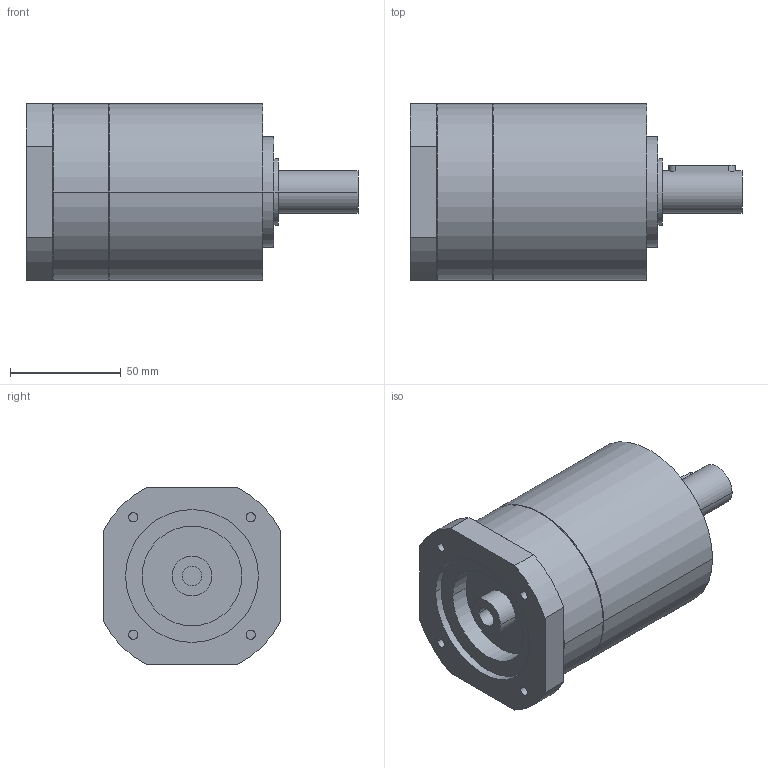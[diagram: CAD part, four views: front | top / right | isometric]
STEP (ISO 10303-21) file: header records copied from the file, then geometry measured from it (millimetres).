
FILE_DESCRIPTION(('CoCreate Modeling STEP Export'),'2;1');
FILE_NAME('GPR100_ig-3-4-5-6_19_B14_9_P23.stp','2014-08-26T10:53:16',(''),(''),'CoCreate Modeling STEP processor for AP214 (Solid Model)','CoCreate Modeling 16.00C 25-Feb-2009 (C) Parametric Technology GmbH','');
FILE_SCHEMA(('AUTOMOTIVE_DESIGN { 1 0 10303 214 1 1 1 1 }'));
Length unit declared in the file: millimetre
Products named in the file (2): GPR100_ig-3-4-5-6_19_B14_9_P23
Assembly tree (1 placements, depth 2):
  GPR100_ig-3-4-5-6_19_B14_9_P23
    GPR100_ig-3-4-5-6_19_B14_9_P23
Bounding box: 150 x 80 x 80 mm (x, y, z)
Volume: 543322 mm3; surface area: 47737.3 mm2
Topology: 1 solids, 1 shells, 74 faces, 187 edges, 131 vertices
Faces by surface type: cylinder 42, plane 26, cone 6
Entity records: 1943 total; most frequent: ORIENTED_EDGE 370, CARTESIAN_POINT 360, DIRECTION 264, EDGE_CURVE 185, VERTEX_POINT 131, AXIS2_PLACEMENT_3D 99, EDGE_LOOP 92, FACE_OUTER_BOUND 74
